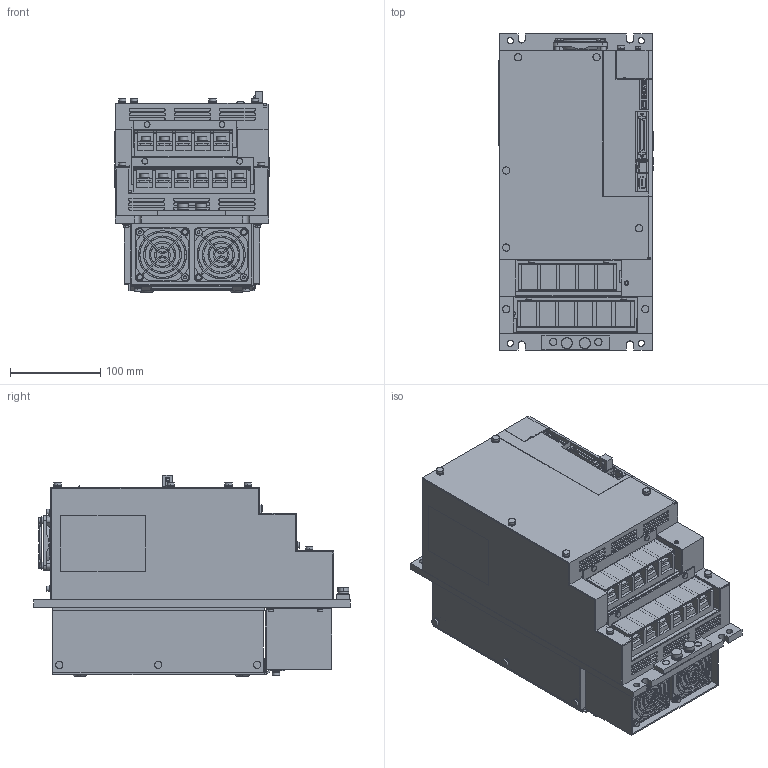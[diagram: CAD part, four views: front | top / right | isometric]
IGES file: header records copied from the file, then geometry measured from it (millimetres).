
Start section: SolidWorks IGES file using analytic representation for surfaces
Global section: file name: C:\YASKAWA\sgdv_470a0_a.IGS; native system: SolidWorks 2006 by SolidWorks Corporation; preprocessor: SolidWorks 2006 by SolidWorks Corporation; author: yamanouchi; date: 080710.182249; units: millimetre
Bounding box: 170.6 x 350 x 223 mm (x, y, z)
Surface area: 492020.6 mm2 (no closed solid volume)
Topology: 0 solids, 0 shells, 2583 faces, 30038 edges, 30038 vertices
Faces by surface type: bspline 1962, revolution 621
